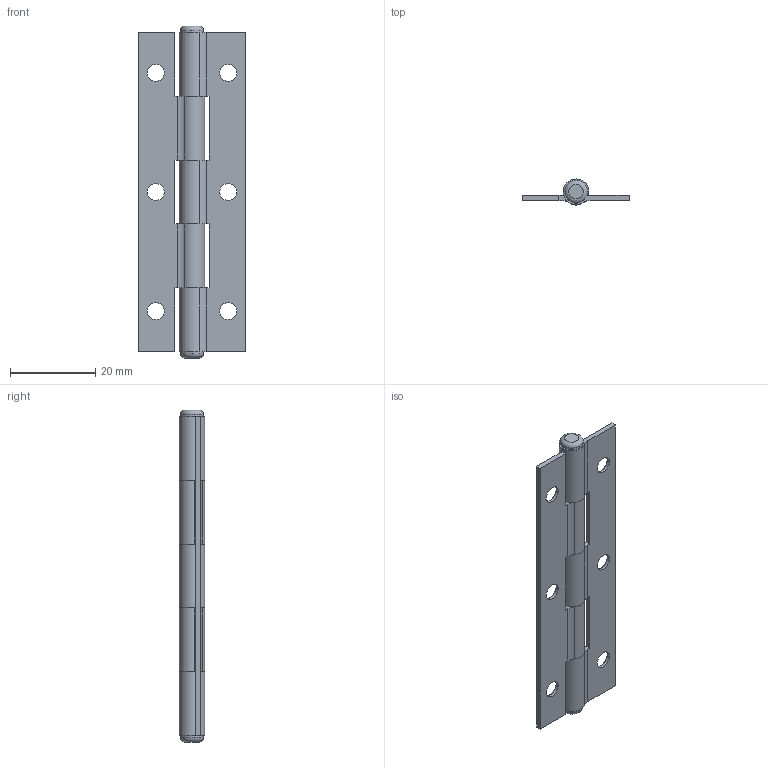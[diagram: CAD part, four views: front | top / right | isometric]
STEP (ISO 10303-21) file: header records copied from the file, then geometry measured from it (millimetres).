
FILE_DESCRIPTION(/* description */ (''),/* implementation_level */ '2;1');
FILE_NAME(/* name */ '\\NAS\db20\HH7525-12\DR_HH7525-12.stp',/* time_stamp */ '2017-08-16T08:23:21+09:00',/* author */ ('user'),/* organization */ (''),/* preprocessor_version */ 'ST-DEVELOPER v15.6',/* originating_system */ 'Autodesk Inventor 2015',/* authorisation */ '');
FILE_SCHEMA (('AUTOMOTIVE_DESIGN { 1 0 10303 214 3 1 1 }'));
Length unit declared in the file: millimetre
Products named in the file (1): DR_HH7525-12
Bounding box: 25 x 5.99 x 78 mm (x, y, z)
Volume: 3700.5 mm3; surface area: 6418.5 mm2
Topology: 3 solids, 3 shells, 69 faces, 181 edges, 120 vertices
Faces by surface type: plane 32, cylinder 29, cone 6, torus 2
Full cylindrical faces by diameter (mm): 3.6 x1, 4 x6, 5.4 x2
Entity records: 2052 total; most frequent: DIRECTION 364, CARTESIAN_POINT 342, ORIENTED_EDGE 316, EDGE_CURVE 158, AXIS2_PLACEMENT_3D 136, VERTEX_POINT 114, EDGE_LOOP 100, LINE 92
